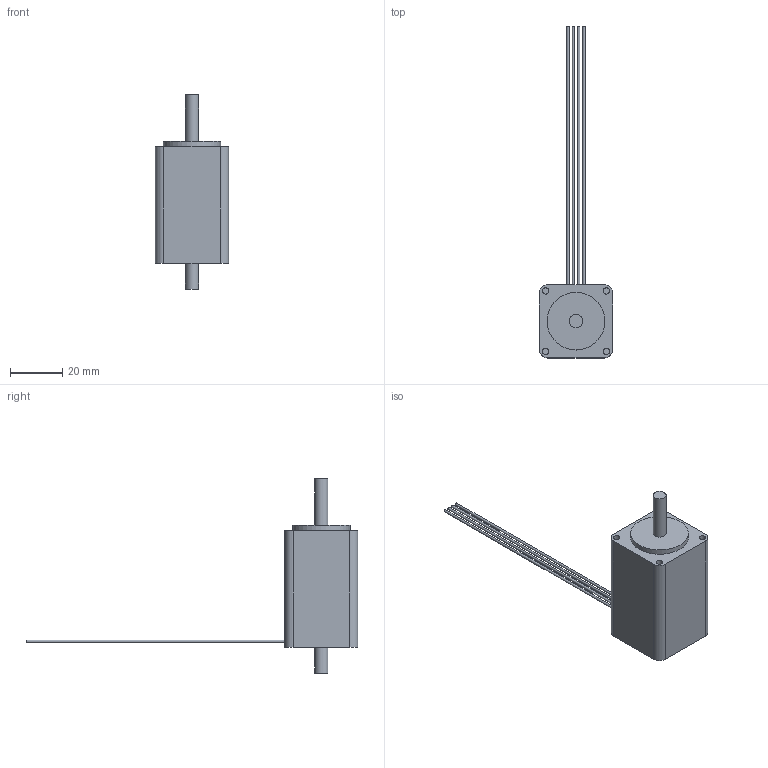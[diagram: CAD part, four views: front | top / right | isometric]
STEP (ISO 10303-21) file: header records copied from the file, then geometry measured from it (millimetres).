
FILE_DESCRIPTION((''),'2;1');
FILE_NAME('C:\Documents and Settings\rbadgerow\Desktop\updated web dwgs\ipt\211\211-18 dbl.stp','2008-10-26T10:20:16',('rbadgerow'),(''),'Autodesk Inventor 2009','Autodesk Inventor 2009','');
FILE_SCHEMA(('AUTOMOTIVE_DESIGN { 1 0 10303 214 1 1 1 1 }'));
Length unit declared in the file: inch
Products named in the file (1): 211-18 dbl
Bounding box: 27.94 x 126.66 x 74.17 mm (x, y, z)
Volume: 35059.8 mm3; surface area: 9407.2 mm2
Topology: 1 solids, 1 shells, 32 faces, 60 edges, 41 vertices
Faces by surface type: plane 17, cylinder 15
Full cylindrical faces by diameter (mm): 0.965 x4, 2.489 x4, 4.999 x2, 21.996 x1
Entity records: 850 total; most frequent: DIRECTION 142, CARTESIAN_POINT 117, ORIENTED_EDGE 92, AXIS2_PLACEMENT_3D 63, EDGE_LOOP 54, EDGE_CURVE 46, VERTEX_POINT 38, FACE_OUTER_BOUND 32
